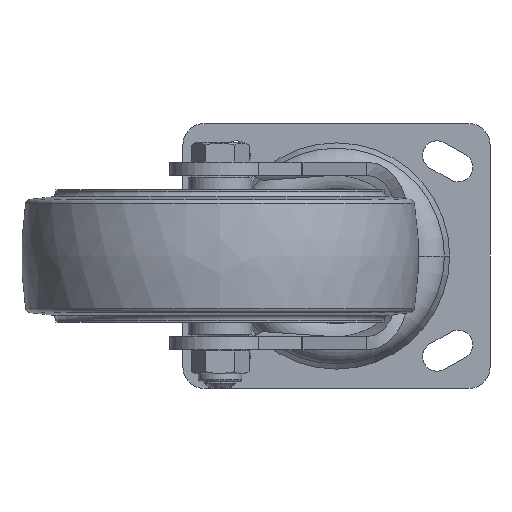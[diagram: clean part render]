
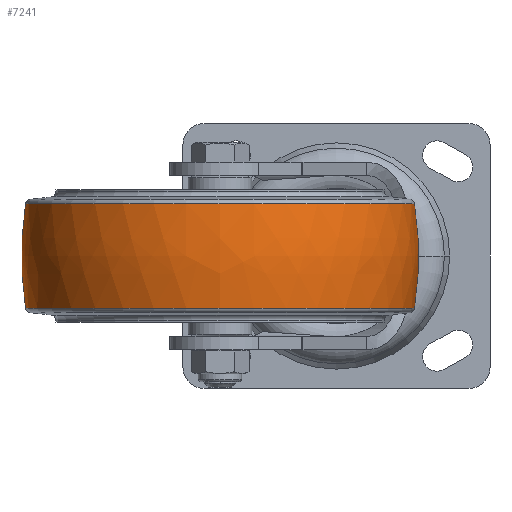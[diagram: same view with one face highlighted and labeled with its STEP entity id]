
A CAD part, front view. The second image highlights one B-rep face of the part: STEP entity #7241.
In plain terms, the highlighted free-form (B-spline) face has degree [3, 3] with [7, 4] control points.
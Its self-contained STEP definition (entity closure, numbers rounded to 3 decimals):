
#5304=CARTESIAN_POINT('',(-19.746,0.,0.));
#5305=DIRECTION('',(-1.,0.,0.));
#5306=DIRECTION('',(0.,1.,0.));
#5307=AXIS2_PLACEMENT_3D('',#5304,#5305,#5306);
#5309=CARTESIAN_POINT('',(0.,-51.741,0.));
#5310=DIRECTION('',(0.,0.,1.));
#5311=DIRECTION('',(0.156,0.988,0.));
#5312=AXIS2_PLACEMENT_3D('',#5309,#5310,#5311);
#5314=CARTESIAN_POINT('',(0.,51.741,
0.));
#5315=DIRECTION('',(0.,0.,-1.));
#5316=DIRECTION('',(0.156,-0.988,0.));
#5317=AXIS2_PLACEMENT_3D('',#5314,#5315,#5316);
#5319=CARTESIAN_POINT('',(19.746,0.,0.));
#5320=DIRECTION('',(-1.,0.,0.));
#5321=DIRECTION('',(0.,1.,0.));
#5322=AXIS2_PLACEMENT_3D('',#5319,#5320,#5321);
#6020=CARTESIAN_POINT('',(19.746,73.452,0.));
#6021=VERTEX_POINT('',#6020);
#6022=CARTESIAN_POINT('',(-19.746,73.452,0.));
#6023=VERTEX_POINT('',#6022);
#6040=CARTESIAN_POINT('',(19.746,-73.452,
0.));
#6041=VERTEX_POINT('',#6040);
#6042=CARTESIAN_POINT('',(-19.746,-73.452,
0.));
#6043=VERTEX_POINT('',#6042);
#7203=CARTESIAN_POINT('',(-20.529,-73.182,
4.604));
#7204=CARTESIAN_POINT('',(-6.904,-75.414,
4.745));
#7205=CARTESIAN_POINT('',(6.904,-75.414,4.745));
#7206=CARTESIAN_POINT('',(20.529,-73.182,4.604));
#7207=CARTESIAN_POINT('',(-20.529,-76.015,
-40.432));
#7208=CARTESIAN_POINT('',(-6.904,-78.334,
-41.665));
#7209=CARTESIAN_POINT('',(6.904,-78.334,
-41.665));
#7210=CARTESIAN_POINT('',(20.529,-76.015,
-40.432));
#7211=CARTESIAN_POINT('',(-20.529,-45.125,
-73.326));
#7212=CARTESIAN_POINT('',(-6.904,-46.501,
-75.563));
#7213=CARTESIAN_POINT('',(6.904,-46.501,
-75.563));
#7214=CARTESIAN_POINT('',(20.529,-45.125,
-73.326));
#7215=CARTESIAN_POINT('',(-20.529,0.,-73.326));
#7216=CARTESIAN_POINT('',(-6.904,0.,-75.563));
#7217=CARTESIAN_POINT('',(6.904,0.,
-75.563));
#7218=CARTESIAN_POINT('',(20.529,0.,-73.326));
#7219=CARTESIAN_POINT('',(-20.529,45.125,
-73.326));
#7220=CARTESIAN_POINT('',(-6.904,46.501,
-75.563));
#7221=CARTESIAN_POINT('',(6.904,46.501,-75.563));
#7222=CARTESIAN_POINT('',(20.529,45.125,-73.326));
#7223=CARTESIAN_POINT('',(-20.529,76.015,
-40.432));
#7224=CARTESIAN_POINT('',(-6.904,78.334,
-41.665));
#7225=CARTESIAN_POINT('',(6.904,78.334,-41.665));
#7226=CARTESIAN_POINT('',(20.529,76.015,-40.432));
#7227=CARTESIAN_POINT('',(-20.529,73.182,4.604));
#7228=CARTESIAN_POINT('',(-6.904,75.414,4.745));
#7229=CARTESIAN_POINT('',(6.904,75.414,4.745));
#7230=CARTESIAN_POINT('',(20.529,73.182,4.604));
#7231=(BOUNDED_SURFACE()B_SPLINE_SURFACE(3,3,((#7203,#7204,#7205,#7206),(#7207,
#7208,#7209,#7210),(#7211,#7212,#7213,#7214),(#7215,#7216,#7217,#7218),(#7219,
#7220,#7221,#7222),(#7223,#7224,#7225,#7226),(#7227,#7228,#7229,#7230)),
.UNSPECIFIED.,.F.,.F.,.F.)B_SPLINE_SURFACE_WITH_KNOTS((4,3,4),(4,4),(0.,1.,
2.),(0.,1.),.UNSPECIFIED.)GEOMETRIC_REPRESENTATION_ITEM()RATIONAL_B_SPLINE_SURFACE(((1.195,1.185,1.185,1.195),(
0.944,0.936,0.936,0.944),(
0.944,0.936,0.936,0.944),(
1.195,1.185,1.185,1.195),(
0.944,0.936,0.936,0.944),(
0.944,0.936,0.936,0.944),(
1.195,1.185,1.185,1.195)))REPRESENTATION_ITEM('')SURFACE());
#7233=ORIENTED_EDGE('',*,*,#7232,.T.);
#7234=ORIENTED_EDGE('',*,*,#7198,.T.);
#7236=ORIENTED_EDGE('',*,*,#7235,.F.);
#7238=ORIENTED_EDGE('',*,*,#7237,.F.);
#7239=EDGE_LOOP('',(#7233,#7234,#7236,#7238));
#7240=FACE_OUTER_BOUND('',#7239,.F.);
#5308=CIRCLE('',#5307,73.452);
#5313=CIRCLE('',#5312,126.741);
#5318=CIRCLE('',#5317,126.741);
#5323=CIRCLE('',#5322,73.452);
#7198=EDGE_CURVE('',#6023,#6043,#5308,.T.);
#7232=EDGE_CURVE('',#6021,#6023,#5313,.T.);
#7235=EDGE_CURVE('',#6041,#6043,#5318,.T.);
#7237=EDGE_CURVE('',#6021,#6041,#5323,.T.);
#7241=ADVANCED_FACE('',(#7240),#7231,.T.);
